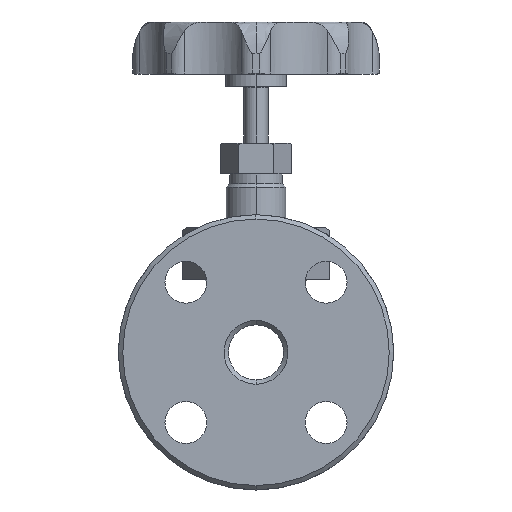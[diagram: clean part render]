
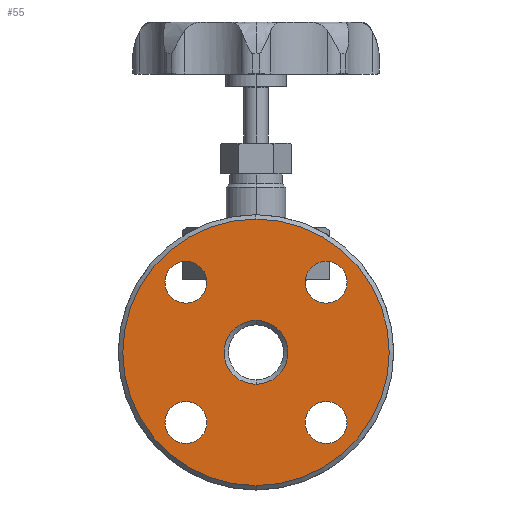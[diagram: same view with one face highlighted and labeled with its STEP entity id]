
A CAD part, left-side view. The second image highlights one B-rep face of the part: STEP entity #55.
In plain terms, the highlighted planar face has unit normal (-1, 0, 0).
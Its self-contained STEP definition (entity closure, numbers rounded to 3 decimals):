
#55=ADVANCED_FACE('',(#446,#447,#448,#449,#450,#451),#445,.F.);
#445=PLANE('',#2718);
#446=FACE_OUTER_BOUND('',#2719,.T.);
#447=FACE_BOUND('',#2720,.T.);
#448=FACE_BOUND('',#2721,.T.);
#449=FACE_BOUND('',#2722,.T.);
#450=FACE_BOUND('',#2723,.T.);
#451=FACE_BOUND('',#2724,.T.);
#2715=CARTESIAN_POINT('',(-63.5,-114.789,131.));
#2716=DIRECTION('',(1.,0.,0.));
#2717=DIRECTION('',(0.,0.,-1.));
#2718=AXIS2_PLACEMENT_3D('',#2715,#2716,#2717);
#2719=EDGE_LOOP('',(#4506,#4507));
#2720=EDGE_LOOP('',(#4508,#4509));
#2721=EDGE_LOOP('',(#4510,#4511));
#2722=EDGE_LOOP('',(#4512,#4513));
#2723=EDGE_LOOP('',(#4514,#4515));
#2724=EDGE_LOOP('',(#4516,#4517));
#4506=ORIENTED_EDGE('',*,*,#5825,.T.);
#4507=ORIENTED_EDGE('',*,*,#5826,.T.);
#4508=ORIENTED_EDGE('',*,*,#5827,.F.);
#4509=ORIENTED_EDGE('',*,*,#5828,.F.);
#4510=ORIENTED_EDGE('',*,*,#5829,.F.);
#4511=ORIENTED_EDGE('',*,*,#5830,.F.);
#4512=ORIENTED_EDGE('',*,*,#5831,.T.);
#4513=ORIENTED_EDGE('',*,*,#5832,.T.);
#4514=ORIENTED_EDGE('',*,*,#5833,.F.);
#4515=ORIENTED_EDGE('',*,*,#5834,.F.);
#4516=ORIENTED_EDGE('',*,*,#5835,.F.);
#4517=ORIENTED_EDGE('',*,*,#5836,.F.);
#5825=EDGE_CURVE('',#7531,#7532,#7533,.T.);
#5826=EDGE_CURVE('',#7532,#7531,#7539,.T.);
#5827=EDGE_CURVE('',#7545,#7546,#7547,.T.);
#5828=EDGE_CURVE('',#7546,#7545,#7553,.T.);
#5829=EDGE_CURVE('',#7559,#7560,#7561,.T.);
#5830=EDGE_CURVE('',#7560,#7559,#7567,.T.);
#5831=EDGE_CURVE('',#7573,#7574,#7575,.T.);
#5832=EDGE_CURVE('',#7574,#7573,#7581,.T.);
#5833=EDGE_CURVE('',#7587,#7588,#7589,.T.);
#5834=EDGE_CURVE('',#7588,#7587,#7595,.T.);
#5835=EDGE_CURVE('',#7601,#7602,#7603,.T.);
#5836=EDGE_CURVE('',#7602,#7601,#7609,.T.);
#7531=VERTEX_POINT('',#11685);
#7532=VERTEX_POINT('',#11686);
#7533=CIRCLE('',#11690,60.5);
#7539=CIRCLE('',#11694,60.5);
#7545=VERTEX_POINT('',#11695);
#7546=VERTEX_POINT('',#11696);
#7547=CIRCLE('',#11700,9.5);
#7553=CIRCLE('',#11704,9.5);
#7559=VERTEX_POINT('',#11705);
#7560=VERTEX_POINT('',#11706);
#7561=CIRCLE('',#11710,9.5);
#7567=CIRCLE('',#11714,9.5);
#7573=VERTEX_POINT('',#11715);
#7574=VERTEX_POINT('',#11716);
#7575=CIRCLE('',#11720,14.5);
#7581=CIRCLE('',#11724,14.5);
#7587=VERTEX_POINT('',#11725);
#7588=VERTEX_POINT('',#11726);
#7589=CIRCLE('',#11730,9.5);
#7595=CIRCLE('',#11734,9.5);
#7601=VERTEX_POINT('',#11735);
#7602=VERTEX_POINT('',#11736);
#7603=CIRCLE('',#11740,9.5);
#7609=CIRCLE('',#11744,9.5);
#11685=CARTESIAN_POINT('',(-63.5,0.,-60.5));
#11686=CARTESIAN_POINT('',(-63.5,0.,60.5));
#11687=CARTESIAN_POINT('',(-63.5,0.,0.));
#11688=DIRECTION('',(-1.,0.,0.));
#11689=DIRECTION('',(0.,0.,-1.));
#11690=AXIS2_PLACEMENT_3D('',#11687,#11688,#11689);
#11691=CARTESIAN_POINT('',(-63.5,0.,0.));
#11692=DIRECTION('',(-1.,0.,0.));
#11693=DIRECTION('',(0.,0.,-1.));
#11694=AXIS2_PLACEMENT_3D('',#11691,#11692,#11693);
#11695=CARTESIAN_POINT('',(-63.5,-31.82,-41.32));
#11696=CARTESIAN_POINT('',(-63.5,-31.82,-22.32));
#11697=CARTESIAN_POINT('',(-63.5,-31.82,-31.82));
#11698=DIRECTION('',(-1.,0.,0.));
#11699=DIRECTION('',(0.,0.,1.));
#11700=AXIS2_PLACEMENT_3D('',#11697,#11698,#11699);
#11701=CARTESIAN_POINT('',(-63.5,-31.82,-31.82));
#11702=DIRECTION('',(-1.,0.,0.));
#11703=DIRECTION('',(0.,0.,1.));
#11704=AXIS2_PLACEMENT_3D('',#11701,#11702,#11703);
#11705=CARTESIAN_POINT('',(-63.5,31.82,-41.32));
#11706=CARTESIAN_POINT('',(-63.5,31.82,-22.32));
#11707=CARTESIAN_POINT('',(-63.5,31.82,-31.82));
#11708=DIRECTION('',(-1.,0.,0.));
#11709=DIRECTION('',(0.,0.,1.));
#11710=AXIS2_PLACEMENT_3D('',#11707,#11708,#11709);
#11711=CARTESIAN_POINT('',(-63.5,31.82,-31.82));
#11712=DIRECTION('',(-1.,0.,0.));
#11713=DIRECTION('',(0.,0.,1.));
#11714=AXIS2_PLACEMENT_3D('',#11711,#11712,#11713);
#11715=CARTESIAN_POINT('',(-63.5,0.,-14.5));
#11716=CARTESIAN_POINT('',(-63.5,0.,14.5));
#11717=CARTESIAN_POINT('',(-63.5,0.,0.));
#11718=DIRECTION('',(1.,0.,0.));
#11719=DIRECTION('',(0.,0.,-1.));
#11720=AXIS2_PLACEMENT_3D('',#11717,#11718,#11719);
#11721=CARTESIAN_POINT('',(-63.5,0.,0.));
#11722=DIRECTION('',(1.,0.,0.));
#11723=DIRECTION('',(0.,0.,-1.));
#11724=AXIS2_PLACEMENT_3D('',#11721,#11722,#11723);
#11725=CARTESIAN_POINT('',(-63.5,-31.82,22.32));
#11726=CARTESIAN_POINT('',(-63.5,-31.82,41.32));
#11727=CARTESIAN_POINT('',(-63.5,-31.82,31.82));
#11728=DIRECTION('',(-1.,0.,0.));
#11729=DIRECTION('',(0.,0.,1.));
#11730=AXIS2_PLACEMENT_3D('',#11727,#11728,#11729);
#11731=CARTESIAN_POINT('',(-63.5,-31.82,31.82));
#11732=DIRECTION('',(-1.,0.,0.));
#11733=DIRECTION('',(0.,0.,1.));
#11734=AXIS2_PLACEMENT_3D('',#11731,#11732,#11733);
#11735=CARTESIAN_POINT('',(-63.5,31.82,22.32));
#11736=CARTESIAN_POINT('',(-63.5,31.82,41.32));
#11737=CARTESIAN_POINT('',(-63.5,31.82,31.82));
#11738=DIRECTION('',(-1.,0.,0.));
#11739=DIRECTION('',(0.,0.,1.));
#11740=AXIS2_PLACEMENT_3D('',#11737,#11738,#11739);
#11741=CARTESIAN_POINT('',(-63.5,31.82,31.82));
#11742=DIRECTION('',(-1.,0.,0.));
#11743=DIRECTION('',(0.,0.,1.));
#11744=AXIS2_PLACEMENT_3D('',#11741,#11742,#11743);
